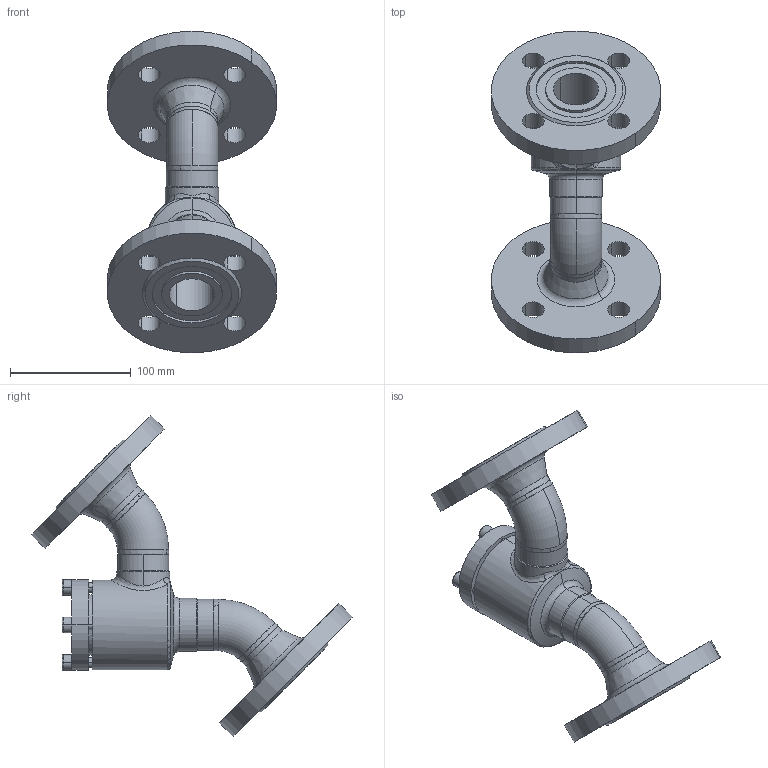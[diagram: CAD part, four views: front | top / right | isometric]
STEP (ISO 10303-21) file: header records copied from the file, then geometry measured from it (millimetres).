
FILE_DESCRIPTION (( 'STEP AP214' ), '1' );
FILE_NAME ('RV28320D13-DN032_DIN-FL-N_PS40.STEP', '2006-04-28T05:18:01', ( 'Herr Grams' ), ( 'AWP GmbH' ), 'SwSTEP 2.0', 'SolidWorks 2002296', '' );
FILE_SCHEMA (( 'AUTOMOTIVE_DESIGN' ));
Length unit declared in the file: millimetre
Products named in the file (13): RV28320D13-DN032_DIN-FL-N_PS40; RV28300E13_Deck+Schr-DN25-32_Standard; Deckel28300E13-DN25-32_Standard; Zylinderschraube-DIN912_M 8x 25; Gehäuse-kpl16320-DN032_DIN_PS40_Standard; Gehäuse-kpl16300-DN032_R1_Standard; Gehäuse16400-DN032_Standard; bead16300-Geh-032-2_Standard; bead16300-Geh-032-1_Standard; Rohrbogen 45°_R1-Fase_Rohrbogen-DN032-45°; bead16320-DN032-2_Standard; bead16320-DN032-1_Standard; Flansch-DIN2635-Nut_PS40_DIN-Flansch-DN032_PS40-Nut
Assembly tree (17 placements, depth 4):
  RV28320D13-DN032_DIN-FL-N_PS40
    RV28300E13_Deck+Schr-DN25-32_Standard
      Zylinderschraube-DIN912_M 8x 25  x4
      Deckel28300E13-DN25-32_Standard
    Gehäuse-kpl16320-DN032_DIN_PS40_Standard
      Gehäuse-kpl16300-DN032_R1_Standard
        bead16300-Geh-032-1_Standard
        Gehäuse16400-DN032_Standard
        Rohrbogen 45°_R1-Fase_Rohrbogen-DN032-45°  x2
        bead16300-Geh-032-2_Standard
      bead16320-DN032-1_Standard
      Flansch-DIN2635-Nut_PS40_DIN-Flansch-DN032_PS40-Nut  x2
      bead16320-DN032-2_Standard
Bounding box: 139.47 x 265.6 x 265.6 mm (x, y, z)
Volume: 770952.9 mm3; surface area: 186308.2 mm2
Topology: 14 solids, 14 shells, 252 faces, 583 edges, 363 vertices
Faces by surface type: cylinder 86, plane 66, cone 58, torus 24, bspline 18
Entity records: 52013 total; most frequent: CARTESIAN_POINT 47727, DIRECTION 758, ORIENTED_EDGE 742, EDGE_CURVE 371, AXIS2_PLACEMENT_3D 321, VERTEX_POINT 231, EDGE_LOOP 186, CIRCLE 160
